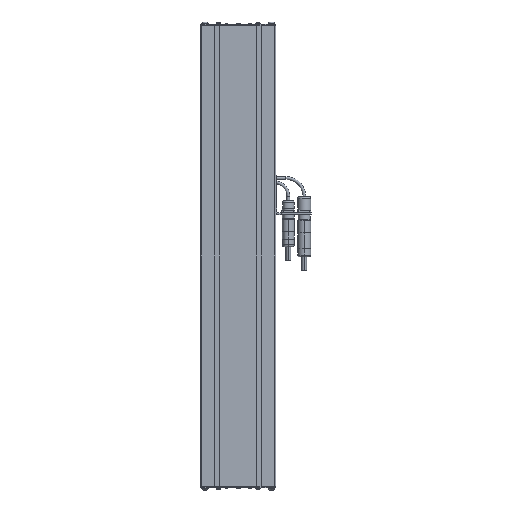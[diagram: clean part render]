
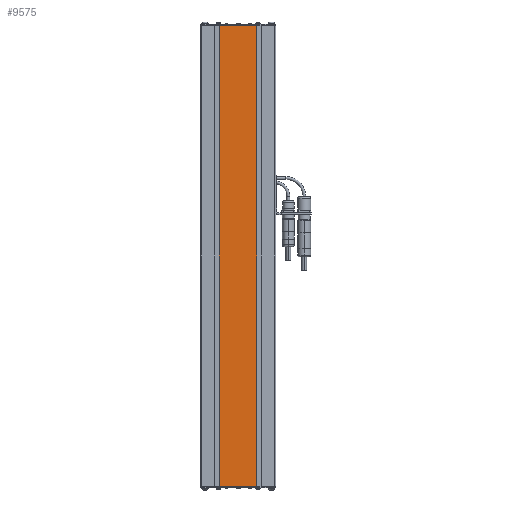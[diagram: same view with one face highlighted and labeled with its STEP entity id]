
A CAD part, front view. The second image highlights one B-rep face of the part: STEP entity #9575.
In plain terms, the highlighted planar face has unit normal (0, -1, 0).
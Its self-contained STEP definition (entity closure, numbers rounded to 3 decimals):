
#1115 = EDGE_CURVE ( 'NONE', #2883, #5169, #16528, .T. ) ;
#1693 = LINE ( 'NONE', #14809, #12612 ) ;
#1714 = VERTEX_POINT ( 'NONE', #24685 ) ;
#2883 = VERTEX_POINT ( 'NONE', #16595 ) ;
#3318 = PLANE ( 'NONE',  #13716 ) ;
#3466 = CARTESIAN_POINT ( 'NONE',  ( 39.95, 0., -491.5 ) ) ;
#5169 = VERTEX_POINT ( 'NONE', #9317 ) ;
#5237 = DIRECTION ( 'NONE',  ( 0., -1., 0. ) ) ;
#5381 = FACE_OUTER_BOUND ( 'NONE', #26632, .T. ) ;
#6052 = DIRECTION ( 'NONE',  ( 1., 0., 0. ) ) ;
#8152 = VECTOR ( 'NONE', #6052, 1000. ) ;
#9317 = CARTESIAN_POINT ( 'NONE',  ( 39.95, 0., 491.5 ) ) ;
#9575 = ADVANCED_FACE ( 'NONE', ( #5381 ), #3318, .T. ) ;
#10303 = CARTESIAN_POINT ( 'NONE',  ( 39.95, 0., -491.5 ) ) ;
#10522 = DIRECTION ( 'NONE',  ( 0., 0., 1. ) ) ;
#10608 = VECTOR ( 'NONE', #14597, 1000. ) ;
#11177 = EDGE_CURVE ( 'NONE', #1714, #2883, #1693, .T. ) ;
#11303 = LINE ( 'NONE', #15047, #13821 ) ;
#12612 = VECTOR ( 'NONE', #10522, 1000. ) ;
#13546 = CARTESIAN_POINT ( 'NONE',  ( 0., 0., -491.5 ) ) ;
#13716 = AXIS2_PLACEMENT_3D ( 'NONE', #13546, #5237, #24254 ) ;
#13821 = VECTOR ( 'NONE', #17627, 1000. ) ;
#14597 = DIRECTION ( 'NONE',  ( 0., 0., 1. ) ) ;
#14809 = CARTESIAN_POINT ( 'NONE',  ( -39.95, 0., -491.5 ) ) ;
#14955 = EDGE_CURVE ( 'NONE', #18122, #5169, #25307, .T. ) ;
#15047 = CARTESIAN_POINT ( 'NONE',  ( 0., 0., -491.5 ) ) ;
#15824 = ORIENTED_EDGE ( 'NONE', *, *, #14955, .T. ) ;
#16528 = LINE ( 'NONE', #23127, #8152 ) ;
#16595 = CARTESIAN_POINT ( 'NONE',  ( -39.95, 0., 491.5 ) ) ;
#17627 = DIRECTION ( 'NONE',  ( 1., 0., 0. ) ) ;
#17875 = ORIENTED_EDGE ( 'NONE', *, *, #11177, .F. ) ;
#18122 = VERTEX_POINT ( 'NONE', #3466 ) ;
#18304 = EDGE_CURVE ( 'NONE', #1714, #18122, #11303, .T. ) ;
#18661 = ORIENTED_EDGE ( 'NONE', *, *, #18304, .T. ) ;
#23127 = CARTESIAN_POINT ( 'NONE',  ( 0., 0., 491.5 ) ) ;
#24254 = DIRECTION ( 'NONE',  ( 0., 0., -1. ) ) ;
#24361 = ORIENTED_EDGE ( 'NONE', *, *, #1115, .F. ) ;
#24685 = CARTESIAN_POINT ( 'NONE',  ( -39.95, 0., -491.5 ) ) ;
#25307 = LINE ( 'NONE', #10303, #10608 ) ;
#26632 = EDGE_LOOP ( 'NONE', ( #24361, #17875, #18661, #15824 ) ) ;
